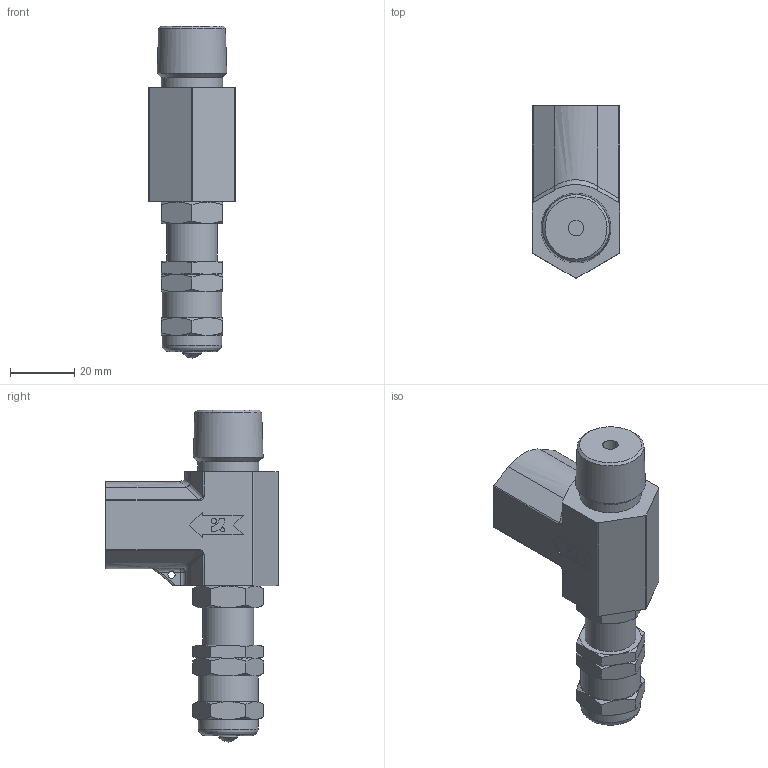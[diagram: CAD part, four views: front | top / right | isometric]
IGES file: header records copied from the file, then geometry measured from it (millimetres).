
Global section: file name: SRV-M8N-F8N; native system: Autodesk Inventor 2016; preprocessor: unknown; author: 이승민,,11,0; organization: 20161227.101918; date: 20161229.080834; units: millimetre
Bounding box: 27 x 53.51 x 103 mm (x, y, z)
Volume: 46883.3 mm3; surface area: 16993.5 mm2
Topology: 5 solids, 5 shells, 198 faces, 480 edges, 308 vertices
Faces by surface type: bspline 198
